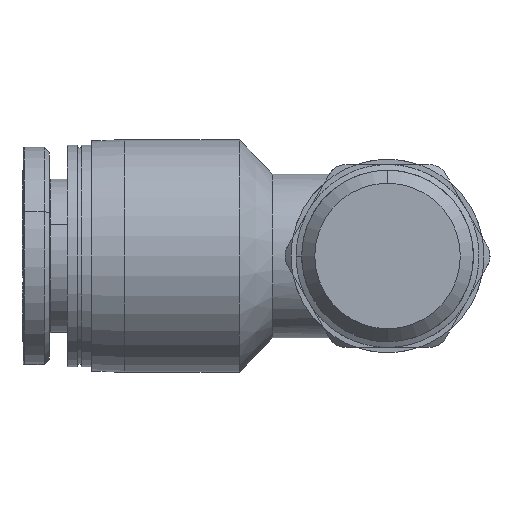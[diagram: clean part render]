
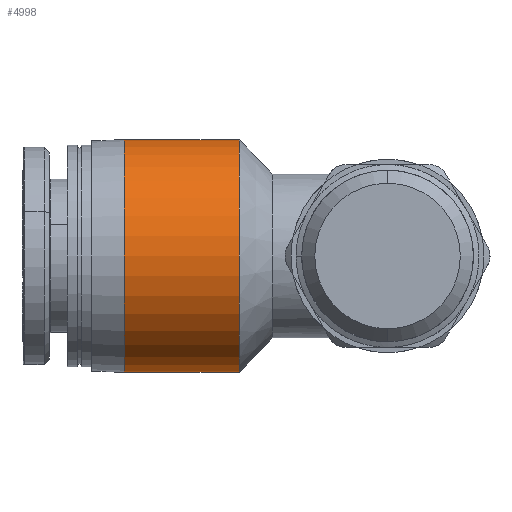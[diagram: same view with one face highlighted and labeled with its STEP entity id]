
A CAD part, front view. The second image highlights one B-rep face of the part: STEP entity #4998.
In plain terms, the highlighted cylindrical face has radius 8.926 mm (diameter 17.852 mm), a partial arc.
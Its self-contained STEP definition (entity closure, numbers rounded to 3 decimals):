
#367 = EDGE_CURVE ( 'NONE', #9370, #8077, #6994, .T. ) ;
#1182 = CARTESIAN_POINT ( 'NONE',  ( 8.8, 0., 0. ) ) ;
#1217 = DIRECTION ( 'NONE',  ( 0., 0., 1. ) ) ;
#1376 = FACE_OUTER_BOUND ( 'NONE', #8246, .T. ) ;
#1655 = DIRECTION ( 'NONE',  ( 0., 0., 1. ) ) ;
#1969 = LINE ( 'NONE', #8778, #9090 ) ;
#2332 = DIRECTION ( 'NONE',  ( -1., 0., 0. ) ) ;
#2826 = DIRECTION ( 'NONE',  ( -1., 0., 0. ) ) ;
#2908 = CARTESIAN_POINT ( 'NONE',  ( -4.4, 0., -8.926 ) ) ;
#3163 = CARTESIAN_POINT ( 'NONE',  ( 8.8, 0., -8.926 ) ) ;
#3523 = ORIENTED_EDGE ( 'NONE', *, *, #4299, .F. ) ;
#3859 = ORIENTED_EDGE ( 'NONE', *, *, #367, .F. ) ;
#4244 = CARTESIAN_POINT ( 'NONE',  ( 0., 0., 0. ) ) ;
#4299 = EDGE_CURVE ( 'NONE', #8077, #8450, #6726, .T. ) ;
#4659 = AXIS2_PLACEMENT_3D ( 'NONE', #4244, #2826, #7863 ) ;
#4823 = CARTESIAN_POINT ( 'NONE',  ( 0., 0., -8.926 ) ) ;
#4849 = DIRECTION ( 'NONE',  ( -1., 0., 0. ) ) ;
#4932 = CARTESIAN_POINT ( 'NONE',  ( 0., 0., 8.926 ) ) ;
#4998 = ADVANCED_FACE ( 'NONE', ( #1376 ), #8607, .T. ) ;
#5317 = ORIENTED_EDGE ( 'NONE', *, *, #7693, .T. ) ;
#5425 = ORIENTED_EDGE ( 'NONE', *, *, #7136, .T. ) ;
#5670 = CARTESIAN_POINT ( 'NONE',  ( 8.8, 0., 8.926 ) ) ;
#5896 = DIRECTION ( 'NONE',  ( -1., 0., 0. ) ) ;
#5912 = CIRCLE ( 'NONE', #8407, 8.926 ) ;
#6726 = CIRCLE ( 'NONE', #4659, 8.926 ) ;
#6994 = LINE ( 'NONE', #2908, #8662 ) ;
#7136 = EDGE_CURVE ( 'NONE', #7788, #8450, #1969, .T. ) ;
#7243 = AXIS2_PLACEMENT_3D ( 'NONE', #7367, #2332, #1655 ) ;
#7367 = CARTESIAN_POINT ( 'NONE',  ( -4.4, 0., 0. ) ) ;
#7693 = EDGE_CURVE ( 'NONE', #9370, #7788, #5912, .T. ) ;
#7788 = VERTEX_POINT ( 'NONE', #5670 ) ;
#7863 = DIRECTION ( 'NONE',  ( 0., 0., 1. ) ) ;
#7968 = DIRECTION ( 'NONE',  ( -1., 0., 0. ) ) ;
#8077 = VERTEX_POINT ( 'NONE', #4823 ) ;
#8246 = EDGE_LOOP ( 'NONE', ( #3859, #5317, #5425, #3523 ) ) ;
#8407 = AXIS2_PLACEMENT_3D ( 'NONE', #1182, #4849, #1217 ) ;
#8450 = VERTEX_POINT ( 'NONE', #4932 ) ;
#8607 = CYLINDRICAL_SURFACE ( 'NONE', #7243, 8.926 ) ;
#8662 = VECTOR ( 'NONE', #5896, 1000. ) ;
#8778 = CARTESIAN_POINT ( 'NONE',  ( -4.4, 0., 8.926 ) ) ;
#9090 = VECTOR ( 'NONE', #7968, 1000. ) ;
#9370 = VERTEX_POINT ( 'NONE', #3163 ) ;
